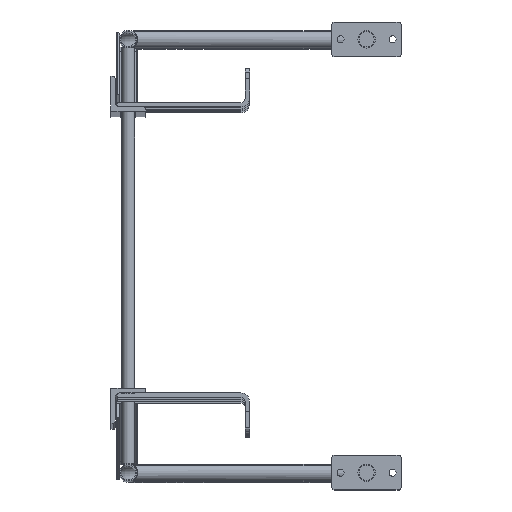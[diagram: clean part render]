
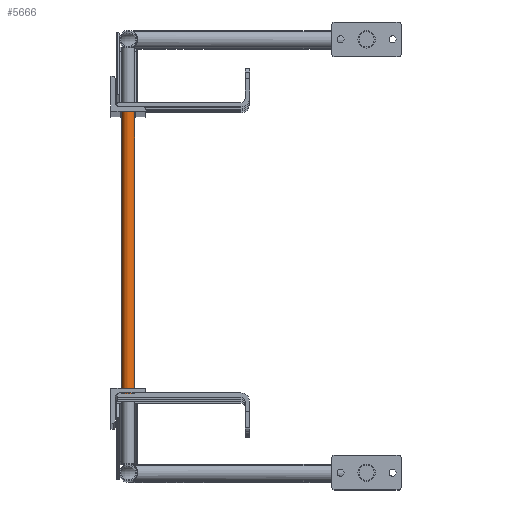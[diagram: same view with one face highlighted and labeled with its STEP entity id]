
A CAD part, top view. The second image highlights one B-rep face of the part: STEP entity #5666.
In plain terms, the highlighted cylindrical face has radius 9.525 mm (diameter 19.05 mm), a full revolution.
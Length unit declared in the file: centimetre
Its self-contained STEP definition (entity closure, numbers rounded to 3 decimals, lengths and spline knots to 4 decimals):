
#1006=FACE_BOUND('',#1565,.T.);
#1220=FACE_OUTER_BOUND('',#1564,.T.);
#1564=EDGE_LOOP('',(#3760));
#1565=EDGE_LOOP('',(#3761));
#2094=CIRCLE('',#6054,0.9525);
#2095=CIRCLE('',#6055,0.9525);
#2438=VERTEX_POINT('',#8705);
#2439=VERTEX_POINT('',#8707);
#2984=EDGE_CURVE('',#2438,#2438,#2094,.T.);
#2985=EDGE_CURVE('',#2439,#2439,#2095,.T.);
#3760=ORIENTED_EDGE('',*,*,#2984,.T.);
#3761=ORIENTED_EDGE('',*,*,#2985,.F.);
#5144=CYLINDRICAL_SURFACE('',#6053,0.9525);
#5666=ADVANCED_FACE('',(#1220,#1006),#5144,.T.);
#6053=AXIS2_PLACEMENT_3D('',#8704,#6785,#6786);
#6054=AXIS2_PLACEMENT_3D('',#8706,#6787,#6788);
#6055=AXIS2_PLACEMENT_3D('',#8708,#6789,#6790);
#6785=DIRECTION('center_axis',(0.,-1.,0.));
#6786=DIRECTION('ref_axis',(1.,0.,0.));
#6787=DIRECTION('center_axis',(0.,1.,0.));
#6788=DIRECTION('ref_axis',(1.,0.,0.));
#6789=DIRECTION('center_axis',(0.,1.,0.));
#6790=DIRECTION('ref_axis',(1.,0.,0.));
#8704=CARTESIAN_POINT('Origin',(2.54,0.4762,521.97));
#8705=CARTESIAN_POINT('',(1.5875,-41.4338,521.97));
#8706=CARTESIAN_POINT('Origin',(2.54,-41.4338,521.97));
#8707=CARTESIAN_POINT('',(1.5875,0.4762,521.97));
#8708=CARTESIAN_POINT('Origin',(2.54,0.4762,521.97));
